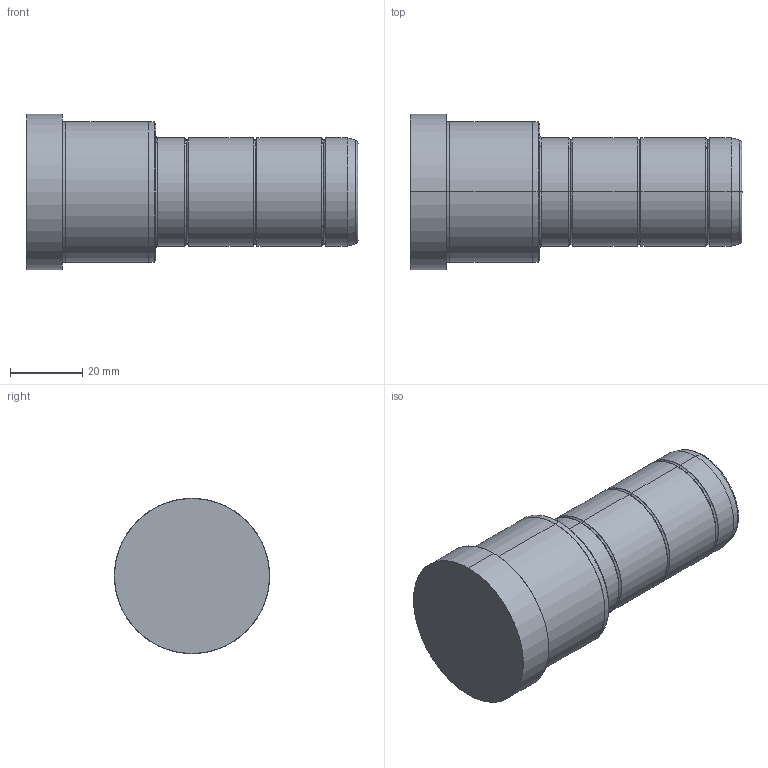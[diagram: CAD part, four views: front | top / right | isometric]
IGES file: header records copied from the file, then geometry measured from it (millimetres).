
Start section: SolidWorks IGES file using analytic representation for surfaces
Global section: file name: C:\Documents and Settings\kalite-mail\Desktop\IGS\D02\30\D02 - 30x36x56.IGS; native system: SolidWorks 2008; preprocessor: SolidWorks 2008; author: kalite-mail; date: 080617.090007; units: millimetre
Bounding box: 92 x 43 x 43 mm (x, y, z)
Surface area: 12726.3 mm2 (no closed solid volume)
Topology: 0 solids, 0 shells, 42 faces, 752 edges, 752 vertices
Faces by surface type: bspline 22, revolution 20
